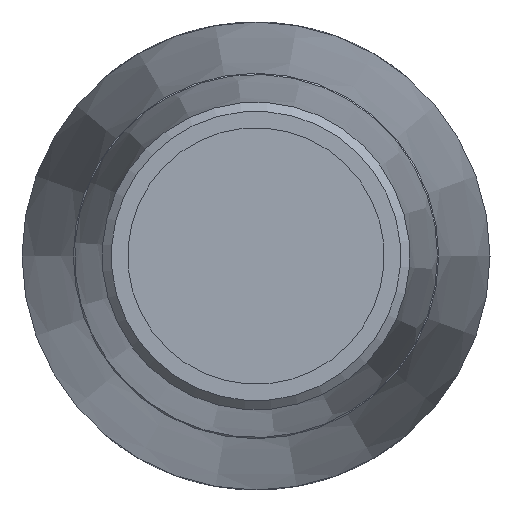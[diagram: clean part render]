
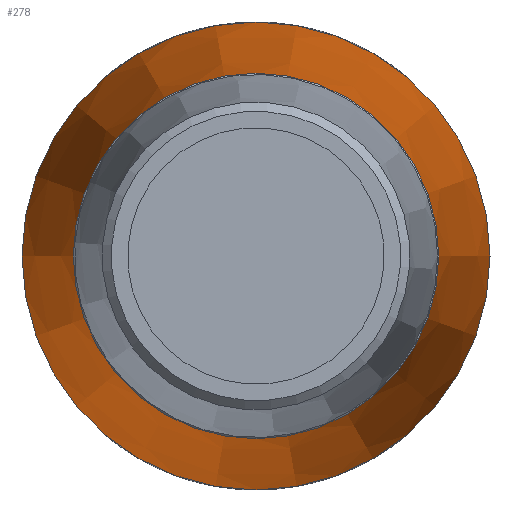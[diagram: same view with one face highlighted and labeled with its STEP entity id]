
A CAD part, left-side view. The second image highlights one B-rep face of the part: STEP entity #278.
In plain terms, the highlighted conical face has half-angle 5 degrees and reference radius 12 mm.
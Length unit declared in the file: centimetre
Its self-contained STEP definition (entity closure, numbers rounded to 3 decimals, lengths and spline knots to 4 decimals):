
#46=FACE_BOUND('',#86,.T.);
#63=FACE_OUTER_BOUND('',#85,.T.);
#85=EDGE_LOOP('',(#191));
#86=EDGE_LOOP('',(#192));
#121=CIRCLE('',#301,1.0544);
#123=CIRCLE('',#304,1.35);
#137=VERTEX_POINT('',#423);
#139=VERTEX_POINT('',#428);
#161=EDGE_CURVE('',#137,#137,#121,.T.);
#163=EDGE_CURVE('',#139,#139,#123,.T.);
#191=ORIENTED_EDGE('',*,*,#163,.T.);
#192=ORIENTED_EDGE('',*,*,#161,.F.);
#246=CONICAL_SURFACE('',#303,1.2,5.);
#278=ADVANCED_FACE('',(#63,#46),#246,.T.);
#301=AXIS2_PLACEMENT_3D('',#424,#341,#342);
#303=AXIS2_PLACEMENT_3D('',#427,#345,#346);
#304=AXIS2_PLACEMENT_3D('',#429,#347,#348);
#341=DIRECTION('center_axis',(-1.,0.,0.));
#342=DIRECTION('ref_axis',(0.,1.,0.));
#345=DIRECTION('center_axis',(1.,0.,0.));
#346=DIRECTION('ref_axis',(0.,-1.,0.));
#347=DIRECTION('center_axis',(-1.,0.,0.));
#348=DIRECTION('ref_axis',(0.,0.,-1.));
#423=CARTESIAN_POINT('',(-7.4002,-1.0544,0.));
#424=CARTESIAN_POINT('Origin',(-7.4002,0.,
0.));
#427=CARTESIAN_POINT('Origin',(-5.7355,0.,0.));
#428=CARTESIAN_POINT('',(-4.021,-1.35,0.));
#429=CARTESIAN_POINT('Origin',(-4.021,0.,0.));
